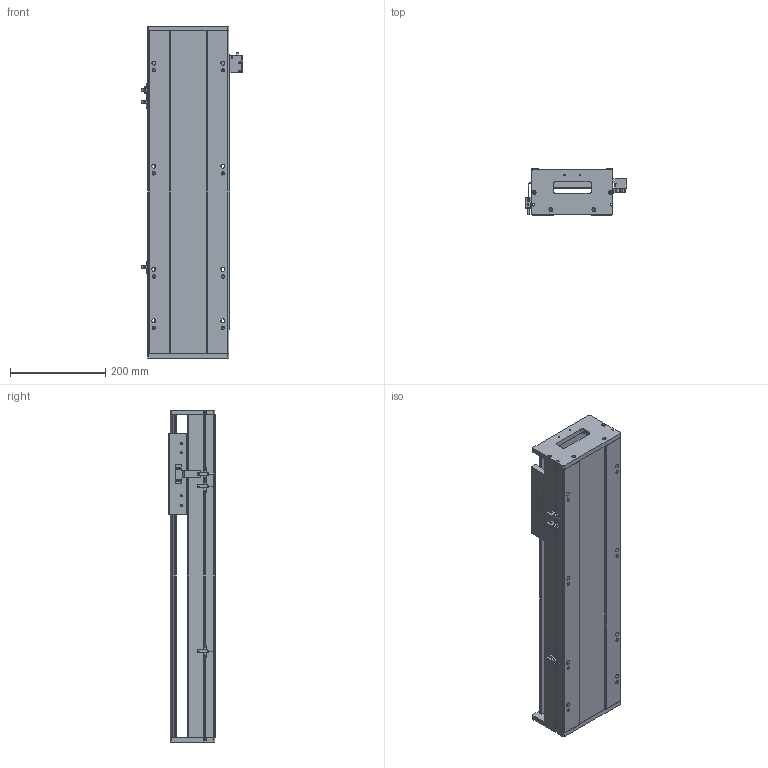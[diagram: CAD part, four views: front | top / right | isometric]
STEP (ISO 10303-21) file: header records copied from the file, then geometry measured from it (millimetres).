
FILE_DESCRIPTION (( 'STEP AP203' ), '1' );
FILE_NAME ('SKR17S-C1-S426（简）.STEP', '2022-09-29T02:38:55', ( '' ), ( '' ), 'SwSTEP 2.0', 'SolidWorks 2018', '' );
FILE_SCHEMA (( 'CONFIG_CONTROL_DESIGN' ));
Length unit declared in the file: millimetre
Products named in the file (8): SKR17滑台-170L（简）; 感应片（SKR12S-14S-17S）; EE-SX672; 棠掑假蚾輸; SKR17耜啣; SIKO棠掑; SKR17菁釱-C1-S426(潠); SKR17S-C1-S426（简）
Assembly tree (10 placements, depth 2):
  SKR17S-C1-S426（简）
    SKR17菁釱-C1-S426(潠)
    SKR17滑台-170L（简）
    SIKO棠掑
    EE-SX672  x3
    SKR17耜啣  x2
    棠掑假蚾輸
    感应片（SKR12S-14S-17S）
Bounding box: 212.7 x 97 x 696 mm (x, y, z)
Volume: 5801783.4 mm3; surface area: 778864.9 mm2
Topology: 11 solids, 11 shells, 993 faces, 2728 edges, 1757 vertices
Faces by surface type: cylinder 446, plane 439, cone 108
Entity records: 29062 total; most frequent: CARTESIAN_POINT 7097, ORIENTED_EDGE 4500, DIRECTION 4320, EDGE_CURVE 2250, AXIS2_PLACEMENT_3D 1532, VERTEX_POINT 1461, LINE 1256, VECTOR 1256
